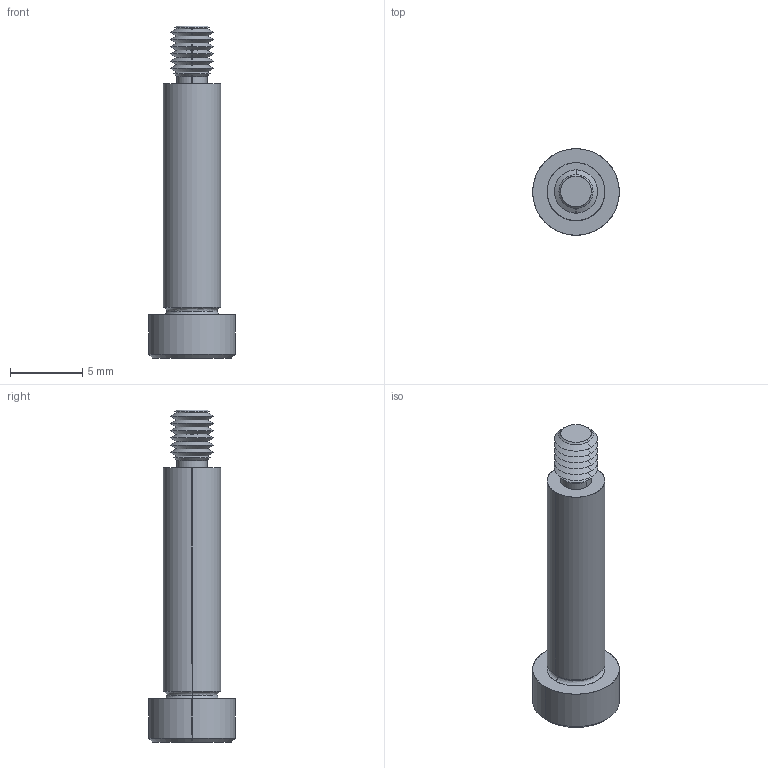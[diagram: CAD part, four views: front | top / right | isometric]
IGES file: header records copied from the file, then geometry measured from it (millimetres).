
Start section: SolidWorks IGES file using analytic representation for surfaces
Global section: file name: C:\Users\IanO\Documents\Temp Folder\GENERAL\SCREW REVISION\P0130_v2\P0130.T5_v2_20220106_IGES\P0130.040-016-T5.igs; native system: SolidWorks 2019; preprocessor: SolidWorks 2019; author: IanO; date: 220106.220804; units: millimetre
Bounding box: 6 x 6 x 23 mm (x, y, z)
Surface area: 385.9 mm2 (no closed solid volume)
Topology: 0 solids, 0 shells, 68 faces, 520 edges, 518 vertices
Faces by surface type: revolution 48, bspline 20
